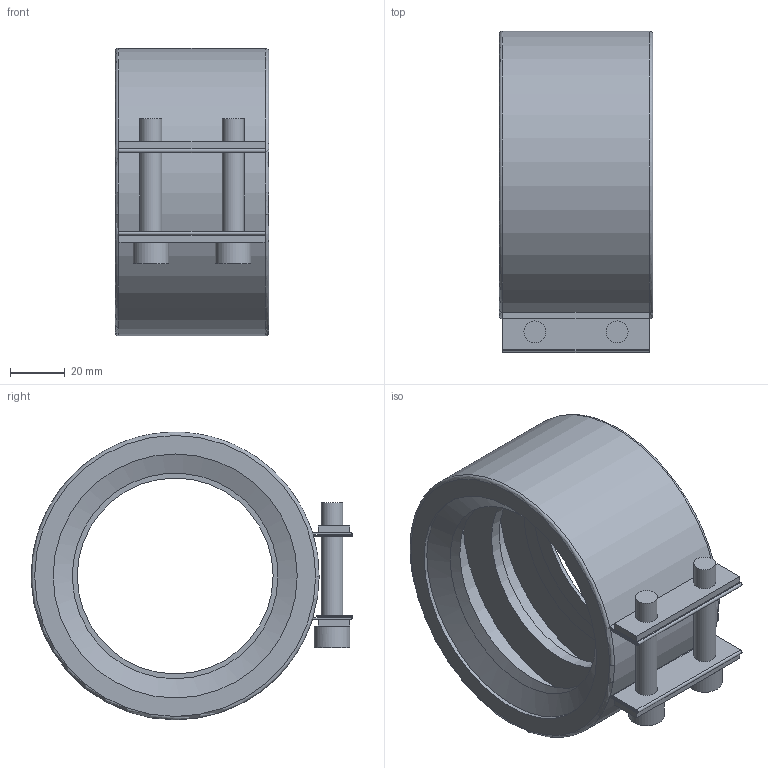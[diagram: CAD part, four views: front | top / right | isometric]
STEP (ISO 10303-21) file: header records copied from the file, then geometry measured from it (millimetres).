
FILE_DESCRIPTION( ( 'STEP AP214' ), '1' );
FILE_NAME( 'C:/Users/ilukic/Documents/ex/gebaudeentwasserung/pe/Geberit adapter clamping connector/359436.stp', '2020-03-26T18:41:17', ( '' ), ( '' ), ' ', 'PARTsolutions', ' ' );
FILE_SCHEMA( ( 'AUTOMOTIVE_DESIGN { 1 0 10303 214 1 1 1 1 }' ) );
Length unit declared in the file: millimetre
Products named in the file (1): _359436
Bounding box: 56 x 117.23 x 104.98 mm (x, y, z)
Volume: 105890.5 mm3; surface area: 89992.9 mm2
Topology: 1 solids, 1 shells, 121 faces, 309 edges, 202 vertices
Faces by surface type: plane 91, cylinder 22, cone 6, torus 2
Full cylindrical faces by diameter (mm): 8 x8, 13 x2, 71.429 x1, 75 x1, 89 x1, 100.768 x2
Entity records: 4378 total; most frequent: CARTESIAN_POINT 680, DIRECTION 544, ORIENTED_EDGE 536, EDGE_CURVE 268, AXIS2_PLACEMENT_3D 192, VERTEX_POINT 184, EDGE_LOOP 168, LINE 160
